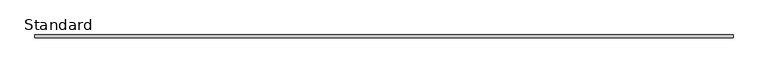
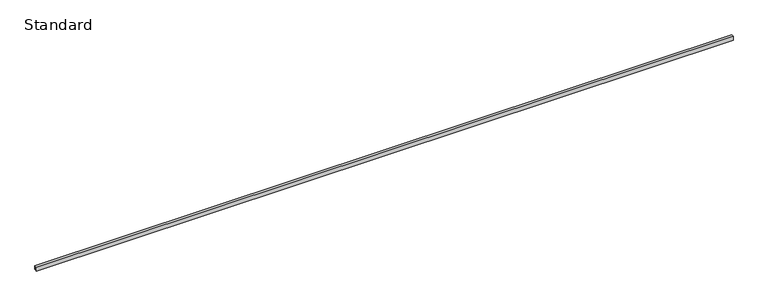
"""IFC4 building model written with IfcOpenShell, lengths in millimetres: furniture geometry, X_Partition-Channel-Duracube-Ceiling : Standard."""

from ifc_helpers import new_model, si_unit, frame, origin, place, context, project, spatial, polyline, outline, extrude, source, transform, mapped, element, save


def standard_6b64d56b(model_context):
    return source(origin(), model_context, "Body", "SweptSolid", [
        extrude(outline(polyline([(0.0, 0.0), (-2.0, 0.0), (-2.0, 24.0), (-15.0, 24.0), (-15.0, 0.0), (-17.0, 0.0), (-17.0, 26.0), (0.0, 26.0), (0.0, 0.0)])), frame((-2157.2996736, 0.0, 0.0), z_axis=(1.0, 0.0, 0.0), x_axis=(0.0, 1.0, 0.0)), (0.0, 0.0, 1.0), 4404.0),
    ])


if __name__ == "__main__":
    model = new_model("IFC4")
    model_context = context("Model", 3, world=origin())
    ifc_project = project(units=[si_unit("LENGTHUNIT", "METRE", prefix="MILLI")], contexts=[model_context])
    site = spatial("IfcSite", under=ifc_project)
    building = spatial("IfcBuilding", under=site)
    placement = place(None, origin())
    standard_shape = standard_6b64d56b(model_context)
    element("IfcFurniture", 1, ObjectType="X_Partition-Channel-Duracube-Ceiling : Standard", at=placement, inside=building, context=model_context, shape_type="MappedRepresentation", body=[
        mapped(standard_shape, transform((0.0, 0.0, 0.0), x_axis=(1.0, 0.0, 0.0), y_axis=(0.0, 1.0, 0.0), z_axis=(0.0, 0.0, 1.0))),
    ])
    save(model, "model.ifc")
